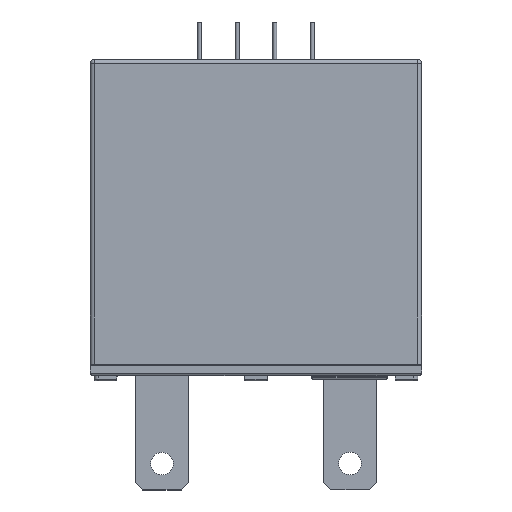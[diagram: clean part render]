
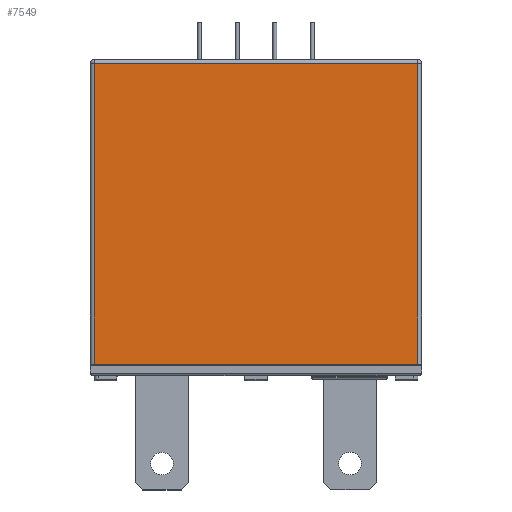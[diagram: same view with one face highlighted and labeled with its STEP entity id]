
A CAD part, top view. The second image highlights one B-rep face of the part: STEP entity #7549.
In plain terms, the highlighted planar face has unit normal (0, 0, 1).
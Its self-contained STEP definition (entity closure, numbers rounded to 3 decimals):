
#113=DIRECTION('',(1.,0.,0.));
#114=VECTOR('',#113,43.);
#115=CARTESIAN_POINT('',(-21.5,1.5,9.25));
#116=LINE('',#115,#114);
#3577=DIRECTION('',(0.,-1.,0.));
#3578=VECTOR('',#3577,40.);
#3579=CARTESIAN_POINT('',(21.5,41.5,9.25));
#3580=LINE('',#3579,#3578);
#3584=DIRECTION('',(0.,-1.,0.));
#3585=VECTOR('',#3584,40.);
#3586=CARTESIAN_POINT('',(-21.5,41.5,9.25));
#3587=LINE('',#3586,#3585);
#3591=DIRECTION('',(1.,0.,0.));
#3592=VECTOR('',#3591,43.);
#3593=CARTESIAN_POINT('',(-21.5,41.5,9.25));
#3594=LINE('',#3593,#3592);
#4089=CARTESIAN_POINT('',(21.5,1.5,9.25));
#4091=VERTEX_POINT('',#4089);
#4092=CARTESIAN_POINT('',(21.5,41.5,9.25));
#4093=VERTEX_POINT('',#4092);
#4120=CARTESIAN_POINT('',(-21.5,1.5,9.25));
#4122=VERTEX_POINT('',#4120);
#4124=CARTESIAN_POINT('',(-21.5,41.5,9.25));
#4125=VERTEX_POINT('',#4124);
#7538=CARTESIAN_POINT('',(-22.,1.5,9.25));
#7539=DIRECTION('',(0.,0.,1.));
#7540=DIRECTION('',(1.,0.,0.));
#7541=AXIS2_PLACEMENT_3D('',#7538,#7539,#7540);
#7542=PLANE('',#7541);
#7543=ORIENTED_EDGE('',*,*,#4331,.T.);
#7544=ORIENTED_EDGE('',*,*,#4386,.F.);
#7545=ORIENTED_EDGE('',*,*,#7522,.F.);
#7546=ORIENTED_EDGE('',*,*,#7388,.T.);
#7547=EDGE_LOOP('',(#7543,#7544,#7545,#7546));
#7548=FACE_OUTER_BOUND('',#7547,.F.);
#7549=ADVANCED_FACE('',(#7548),#7542,.T.);
#4331=EDGE_CURVE('',#4093,#4091,#3580,.T.);
#4386=EDGE_CURVE('',#4122,#4091,#116,.T.);
#7388=EDGE_CURVE('',#4125,#4093,#3594,.T.);
#7522=EDGE_CURVE('',#4125,#4122,#3587,.T.);
